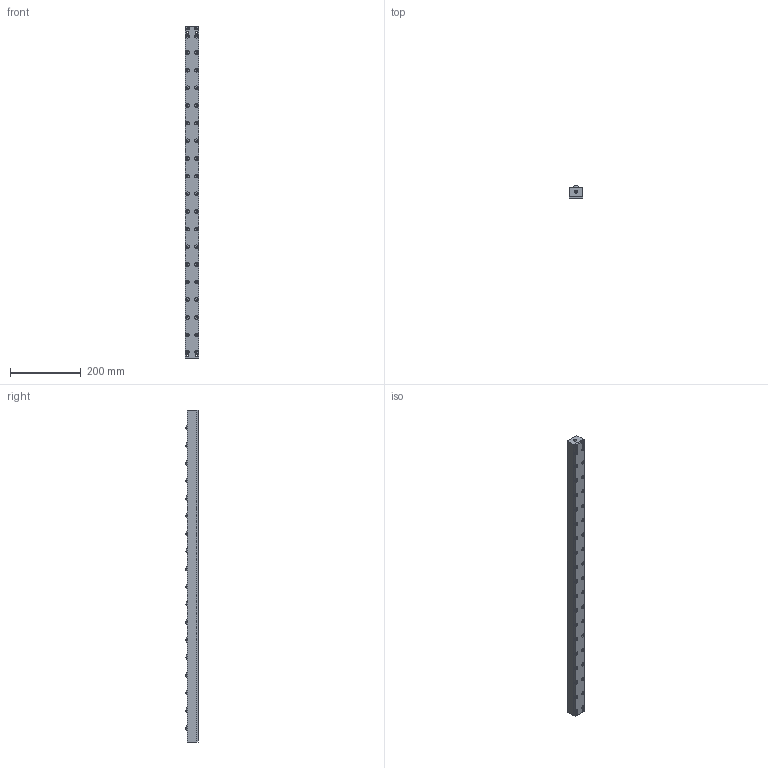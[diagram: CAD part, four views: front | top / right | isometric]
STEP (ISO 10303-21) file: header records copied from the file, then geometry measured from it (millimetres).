
FILE_DESCRIPTION (( 'STEP AP203' ), '1' );
FILE_NAME ('PVL30SL-18-P50.STEP', '2016-01-06T06:11:21', ( '' ), ( '' ), 'SwSTEP 2.0', 'SolidWorks 2013', '' );
FILE_SCHEMA (( 'CONFIG_CONTROL_DESIGN' ));
Length unit declared in the file: millimetre
Products named in the file (1): PVL30SL-18-P50
Bounding box: 38 x 36 x 940 mm (x, y, z)
Volume: 1110103.4 mm3; surface area: 305377.8 mm2
Topology: 9 solids, 9 shells, 761 faces, 1732 edges, 1149 vertices
Faces by surface type: plane 419, cylinder 266, cone 40, sphere 36
Entity records: 21613 total; most frequent: DIRECTION 3898, CARTESIAN_POINT 3629, ORIENTED_EDGE 3436, EDGE_CURVE 1718, AXIS2_PLACEMENT_3D 1418, VERTEX_POINT 1149, VECTOR 1062, LINE 1062
